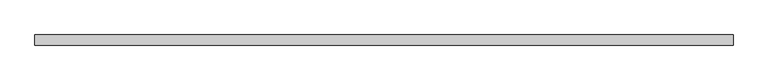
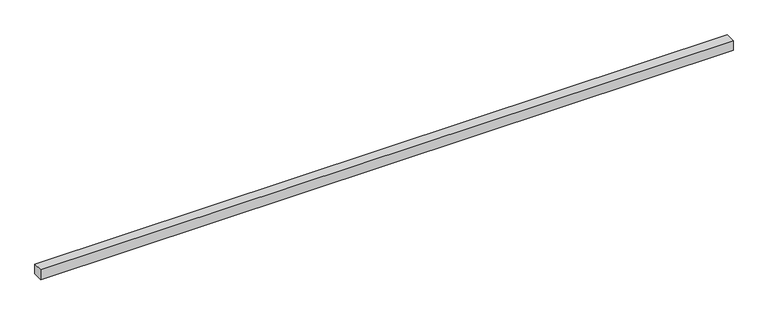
"""IFC4 building model written with IfcOpenShell, lengths in millimetres: light fixture geometry, AI_Luminaire_CONCEPT S_Linéaire : CONCEPTION S."""

from ifc_helpers import new_model, si_unit, frame, origin, place, context, project, spatial, polyline, outline, extrude, source, transform, mapped, element, save


def light_fixture_5207570d(model_context):
    return source(origin(), model_context, "Body", "SweptSolid", [
        extrude(outline(polyline([(1899.7103588, 27.5), (1899.7103588, -27.5), (-1899.7103588, -27.5), (-1899.7103588, 27.5), (1899.7103588, 27.5)])), frame((0.0, 0.0, -56.0), z_axis=(0.0, 0.0, 1.0), x_axis=(1.0, 0.0, 0.0)), (0.0, 0.0, 1.0), 56.0),
    ])


if __name__ == "__main__":
    model = new_model("IFC4")
    model_context = context("Model", 3, world=origin())
    ifc_project = project(units=[si_unit("LENGTHUNIT", "METRE", prefix="MILLI")], contexts=[model_context])
    site = spatial("IfcSite", under=ifc_project)
    building = spatial("IfcBuilding", under=site)
    placement = place(None, origin())
    light_fixture_shape = light_fixture_5207570d(model_context)
    element("IfcLightFixture", 1, ObjectType="AI_Luminaire_CONCEPT S_Linéaire : CONCEPTION S", at=placement, inside=building, context=model_context, shape_type="MappedRepresentation", body=[
        mapped(light_fixture_shape, transform((0.0, 0.0, 0.0), x_axis=(1.0, 0.0, 0.0), y_axis=(0.0, 1.0, 0.0), z_axis=(0.0, 0.0, 1.0))),
    ])
    save(model, "model.ifc")
